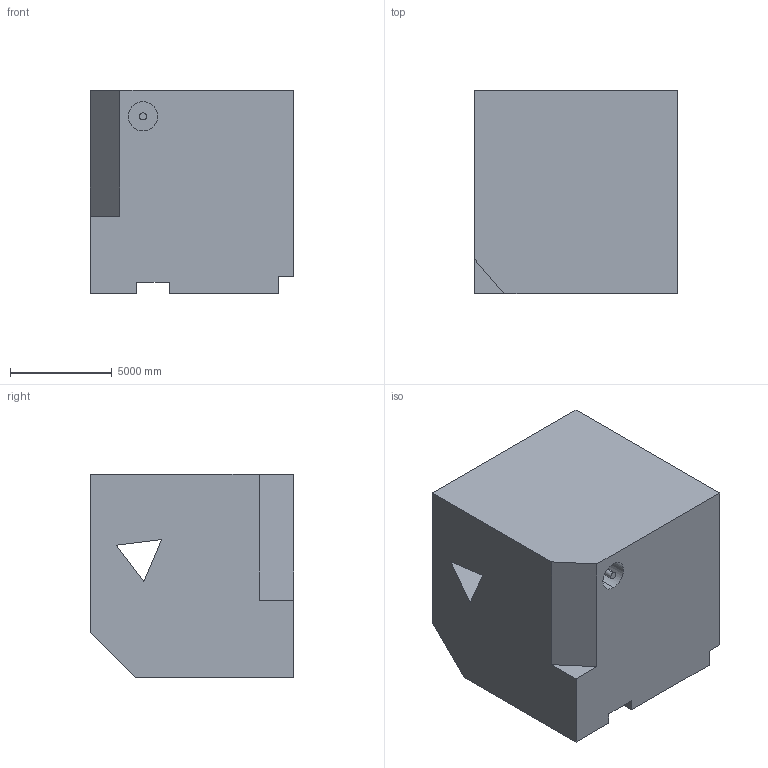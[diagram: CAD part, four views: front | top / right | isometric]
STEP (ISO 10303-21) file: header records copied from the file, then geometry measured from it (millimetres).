
FILE_DESCRIPTION (( 'STEP AP203' ), '1' );
FILE_NAME ('68.STEP', '2022-08-30T14:20:00', ( 'user' ), ( '' ), 'SwSTEP 2.0', 'SolidWorks 2021', '' );
FILE_SCHEMA (( 'CONFIG_CONTROL_DESIGN' ));
Length unit declared in the file: centimetre
Products named in the file (1): 68
Bounding box: 10000 x 10000 x 10000 mm (x, y, z)
Volume: 919558637373.8 mm3; surface area: 679485688.6 mm2
Topology: 1 solids, 1 shells, 30 faces, 78 edges, 52 vertices
Faces by surface type: plane 26, cylinder 4
Entity records: 991 total; most frequent: CARTESIAN_POINT 161, ORIENTED_EDGE 156, DIRECTION 148, EDGE_CURVE 78, VECTOR 70, LINE 70, VERTEX_POINT 52, AXIS2_PLACEMENT_3D 39
